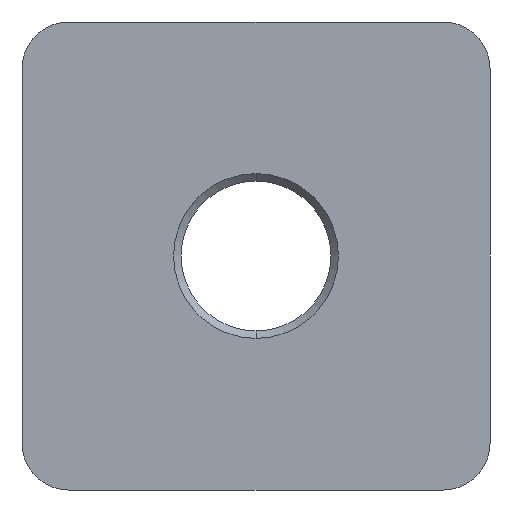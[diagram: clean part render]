
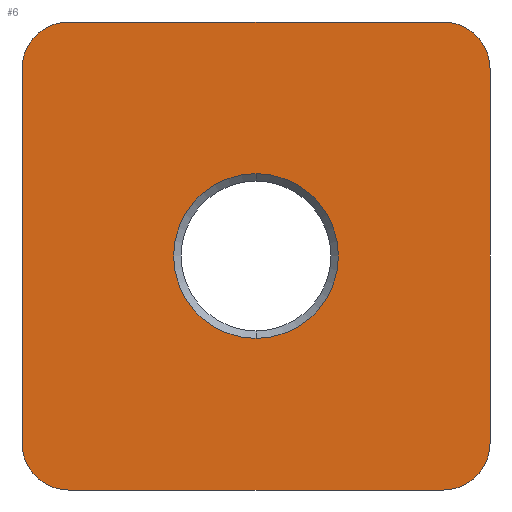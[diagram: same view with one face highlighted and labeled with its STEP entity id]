
A CAD part, front view. The second image highlights one B-rep face of the part: STEP entity #6.
In plain terms, the highlighted planar face has unit normal (0, -1, 0).
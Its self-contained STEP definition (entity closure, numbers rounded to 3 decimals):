
#1 = EDGE_CURVE ( 'NONE', #1128, #1126, #929, .T. ) ;
#3 = ORIENTED_EDGE ( 'NONE', *, *, #1, .T. ) ;
#4 = ORIENTED_EDGE ( 'NONE', *, *, #1124, .T. ) ;
#6 = ADVANCED_FACE ( 'NONE', ( #198, #197 ), #196, .F. ) ;
#50 = EDGE_CURVE ( 'NONE', #934, #53, #250, .T. ) ;
#53 = VERTEX_POINT ( 'NONE', #236 ) ;
#58 = ORIENTED_EDGE ( 'NONE', *, *, #1165, .F. ) ;
#59 = EDGE_LOOP ( 'NONE', ( #58, #1105, #1103, #1096, #1097, #1102, #1098, #1095 ) ) ;
#63 = EDGE_CURVE ( 'NONE', #1144, #934, #286, .T. ) ;
#86 = EDGE_CURVE ( 'NONE', #978, #125, #359, .T. ) ;
#95 = VERTEX_POINT ( 'NONE', #342 ) ;
#100 = EDGE_CURVE ( 'NONE', #125, #95, #337, .T. ) ;
#125 = VERTEX_POINT ( 'NONE', #416 ) ;
#131 = EDGE_CURVE ( 'NONE', #95, #133, #412, .T. ) ;
#133 = VERTEX_POINT ( 'NONE', #407 ) ;
#192 = DIRECTION ( 'NONE',  ( 0., 0., 1. ) ) ;
#193 = DIRECTION ( 'NONE',  ( 0., 1., 0. ) ) ;
#194 = CARTESIAN_POINT ( 'NONE',  ( -20., 0., -20. ) ) ;
#195 = AXIS2_PLACEMENT_3D ( 'NONE', #194, #193, #192 ) ;
#196 = PLANE ( 'NONE',  #195 ) ;
#197 = FACE_OUTER_BOUND ( 'NONE', #59, .T. ) ;
#198 = FACE_BOUND ( 'NONE', #1045, .T. ) ;
#236 = CARTESIAN_POINT ( 'NONE',  ( -20., 0., 25. ) ) ;
#246 = DIRECTION ( 'NONE',  ( 0., 0., -1. ) ) ;
#247 = DIRECTION ( 'NONE',  ( 0., 1., 0. ) ) ;
#248 = CARTESIAN_POINT ( 'NONE',  ( -20., 0., 20. ) ) ;
#249 = AXIS2_PLACEMENT_3D ( 'NONE', #248, #247, #246 ) ;
#250 = CIRCLE ( 'NONE', #249, 5. ) ;
#283 = DIRECTION ( 'NONE',  ( 0., 0., 1. ) ) ;
#284 = VECTOR ( 'NONE', #283, 1000. ) ;
#285 = CARTESIAN_POINT ( 'NONE',  ( -25., 0., 20. ) ) ;
#286 = LINE ( 'NONE', #285, #284 ) ;
#334 = DIRECTION ( 'NONE',  ( 0., 0., -1. ) ) ;
#335 = VECTOR ( 'NONE', #334, 1000. ) ;
#336 = CARTESIAN_POINT ( 'NONE',  ( 25., 0., 20. ) ) ;
#337 = LINE ( 'NONE', #336, #335 ) ;
#342 = CARTESIAN_POINT ( 'NONE',  ( 25., 0., -20. ) ) ;
#355 = DIRECTION ( 'NONE',  ( 0., 0., 1. ) ) ;
#356 = DIRECTION ( 'NONE',  ( 0., 1., 0. ) ) ;
#357 = CARTESIAN_POINT ( 'NONE',  ( 20., 0., 20. ) ) ;
#358 = AXIS2_PLACEMENT_3D ( 'NONE', #357, #356, #355 ) ;
#359 = CIRCLE ( 'NONE', #358, 5. ) ;
#407 = CARTESIAN_POINT ( 'NONE',  ( 20., 0., -25. ) ) ;
#408 = DIRECTION ( 'NONE',  ( 0., 0., -1. ) ) ;
#409 = DIRECTION ( 'NONE',  ( 0., 1., 0. ) ) ;
#410 = CARTESIAN_POINT ( 'NONE',  ( 20., 0., -20. ) ) ;
#411 = AXIS2_PLACEMENT_3D ( 'NONE', #410, #409, #408 ) ;
#412 = CIRCLE ( 'NONE', #411, 5. ) ;
#416 = CARTESIAN_POINT ( 'NONE',  ( 25., 0., 20. ) ) ;
#515 = CARTESIAN_POINT ( 'NONE',  ( -25., 0., 20. ) ) ;
#561 = DIRECTION ( 'NONE',  ( 1., 0., 0. ) ) ;
#562 = VECTOR ( 'NONE', #561, 1000. ) ;
#563 = CARTESIAN_POINT ( 'NONE',  ( -20., 0., 25. ) ) ;
#564 = LINE ( 'NONE', #563, #562 ) ;
#569 = CARTESIAN_POINT ( 'NONE',  ( 20., 0., 25. ) ) ;
#647 = DIRECTION ( 'NONE',  ( -1., 0., 0. ) ) ;
#648 = VECTOR ( 'NONE', #647, 1000. ) ;
#649 = CARTESIAN_POINT ( 'NONE',  ( -20., 0., -25. ) ) ;
#650 = LINE ( 'NONE', #649, #648 ) ;
#745 = CARTESIAN_POINT ( 'NONE',  ( 0., 0., 8.8 ) ) ;
#750 = CARTESIAN_POINT ( 'NONE',  ( 0., 0., -8.8 ) ) ;
#751 = DIRECTION ( 'NONE',  ( 0., 0., 1. ) ) ;
#752 = DIRECTION ( 'NONE',  ( 0., 1., 0. ) ) ;
#753 = CARTESIAN_POINT ( 'NONE',  ( 0., 0., 0. ) ) ;
#754 = AXIS2_PLACEMENT_3D ( 'NONE', #753, #752, #751 ) ;
#758 = CIRCLE ( 'NONE', #754, 8.8 ) ;
#776 = CARTESIAN_POINT ( 'NONE',  ( -20., 0., -25. ) ) ;
#777 = CARTESIAN_POINT ( 'NONE',  ( -25., 0., -20. ) ) ;
#794 = CARTESIAN_POINT ( 'NONE',  ( -20., 0., -20. ) ) ;
#795 = AXIS2_PLACEMENT_3D ( 'NONE', #794, #847, #846 ) ;
#802 = CIRCLE ( 'NONE', #795, 5. ) ;
#846 = DIRECTION ( 'NONE',  ( 0., 0., 1. ) ) ;
#847 = DIRECTION ( 'NONE',  ( 0., 1., 0. ) ) ;
#926 = CARTESIAN_POINT ( 'NONE',  ( 0., 0., 0. ) ) ;
#927 = AXIS2_PLACEMENT_3D ( 'NONE', #926, #928, #930 ) ;
#928 = DIRECTION ( 'NONE',  ( 0., 1., 0. ) ) ;
#929 = CIRCLE ( 'NONE', #927, 8.8 ) ;
#930 = DIRECTION ( 'NONE',  ( 0., 0., 1. ) ) ;
#934 = VERTEX_POINT ( 'NONE', #515 ) ;
#978 = VERTEX_POINT ( 'NONE', #569 ) ;
#982 = EDGE_CURVE ( 'NONE', #53, #978, #564, .T. ) ;
#1045 = EDGE_LOOP ( 'NONE', ( #4, #3 ) ) ;
#1062 = EDGE_CURVE ( 'NONE', #133, #1145, #650, .T. ) ;
#1095 = ORIENTED_EDGE ( 'NONE', *, *, #63, .F. ) ;
#1096 = ORIENTED_EDGE ( 'NONE', *, *, #100, .F. ) ;
#1097 = ORIENTED_EDGE ( 'NONE', *, *, #86, .F. ) ;
#1098 = ORIENTED_EDGE ( 'NONE', *, *, #50, .F. ) ;
#1102 = ORIENTED_EDGE ( 'NONE', *, *, #982, .F. ) ;
#1103 = ORIENTED_EDGE ( 'NONE', *, *, #131, .F. ) ;
#1105 = ORIENTED_EDGE ( 'NONE', *, *, #1062, .F. ) ;
#1124 = EDGE_CURVE ( 'NONE', #1126, #1128, #758, .T. ) ;
#1126 = VERTEX_POINT ( 'NONE', #750 ) ;
#1128 = VERTEX_POINT ( 'NONE', #745 ) ;
#1144 = VERTEX_POINT ( 'NONE', #777 ) ;
#1145 = VERTEX_POINT ( 'NONE', #776 ) ;
#1165 = EDGE_CURVE ( 'NONE', #1145, #1144, #802, .T. ) ;
